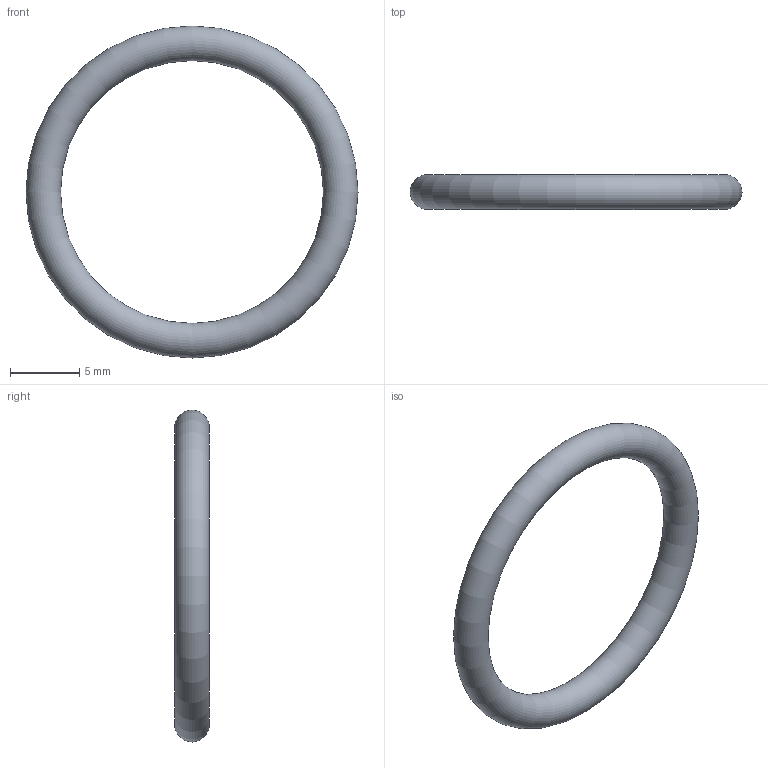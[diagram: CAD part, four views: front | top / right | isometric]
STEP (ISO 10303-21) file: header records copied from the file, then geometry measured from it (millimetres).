
FILE_DESCRIPTION( ( 'STEP AP203' ), '1' );
FILE_NAME( 'C:/Temp/Ganter_Step_05_03_2020/data/3_5/or638/O-Ring OR638-19.00-2.50-70.stp', '2020-03-12T13:44:28', ( 'License CC BY-ND 4.0' ), ( 'CADENAS' ), ' ', 'PARTsolutions', ' ' );
FILE_SCHEMA( ( 'CONFIG_CONTROL_DESIGN' ) );
Length unit declared in the file: millimetre
Products named in the file (1): _O-Ring OR638-19.00-2.50-70
Bounding box: 24 x 2.5 x 24 mm (x, y, z)
Volume: 331.6 mm3; surface area: 530.5 mm2
Topology: 1 solids, 1 shells, 1 faces, 2 edges, 1 vertices
Faces by surface type: torus 1
Entity records: 62 total; most frequent: CC_DESIGN_PERSON_AND_ORGANIZATION_ASSIGNMENT 5, PERSON_AND_ORGANIZATION_ROLE 4, DIRECTION 4, CARTESIAN_POINT 3, DATE_TIME_ROLE 2, CC_DESIGN_DATE_AND_TIME_ASSIGNMENT 2, AXIS2_PLACEMENT_3D 2, DIMENSIONAL_EXPONENTS 2
